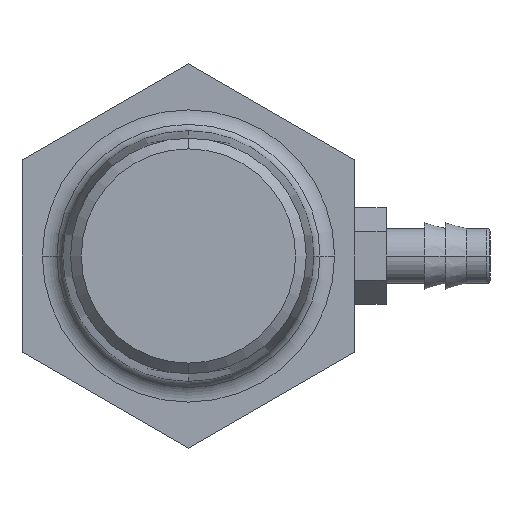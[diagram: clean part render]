
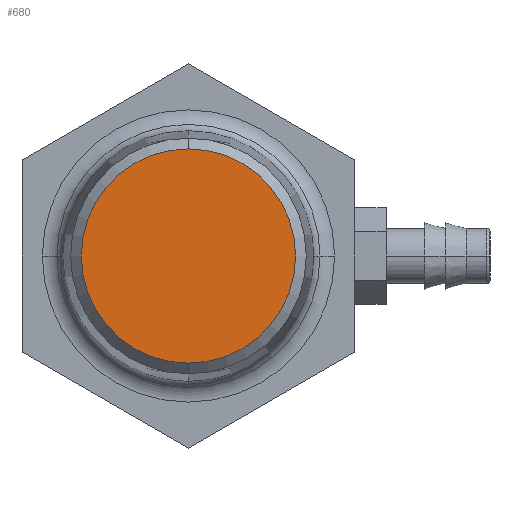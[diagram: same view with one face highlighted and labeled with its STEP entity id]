
A CAD part, left-side view. The second image highlights one B-rep face of the part: STEP entity #680.
In plain terms, the highlighted planar face has unit normal (-1, 0, 0).
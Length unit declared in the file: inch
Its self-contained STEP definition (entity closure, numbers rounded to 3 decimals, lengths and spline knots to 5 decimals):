
#366=CARTESIAN_POINT('',(-3.745,0.,0.));
#367=DIRECTION('',(-1.,0.,0.));
#368=DIRECTION('',(0.,0.,1.));
#369=AXIS2_PLACEMENT_3D('',#366,#367,#368);
#371=CARTESIAN_POINT('',(-3.745,0.,0.));
#372=DIRECTION('',(-1.,0.,0.));
#373=DIRECTION('',(0.,0.,-1.));
#374=AXIS2_PLACEMENT_3D('',#371,#372,#373);
#414=CARTESIAN_POINT('',(-3.745,0.,-0.32189));
#416=VERTEX_POINT('',#414);
#418=CARTESIAN_POINT('',(-3.745,0.,0.32189));
#420=VERTEX_POINT('',#418);
#671=CARTESIAN_POINT('',(-3.745,0.,0.16094));
#672=DIRECTION('',(-1.,0.,0.));
#673=DIRECTION('',(0.,1.,0.));
#674=AXIS2_PLACEMENT_3D('',#671,#672,#673);
#675=PLANE('',#674);
#676=ORIENTED_EDGE('',*,*,#665,.F.);
#677=ORIENTED_EDGE('',*,*,#651,.F.);
#678=EDGE_LOOP('',(#676,#677));
#679=FACE_OUTER_BOUND('',#678,.F.);
#370=CIRCLE('',#369,0.32189);
#375=CIRCLE('',#374,0.32189);
#651=EDGE_CURVE('',#416,#420,#375,.T.);
#665=EDGE_CURVE('',#420,#416,#370,.T.);
#680=ADVANCED_FACE('',(#679),#675,.T.);
